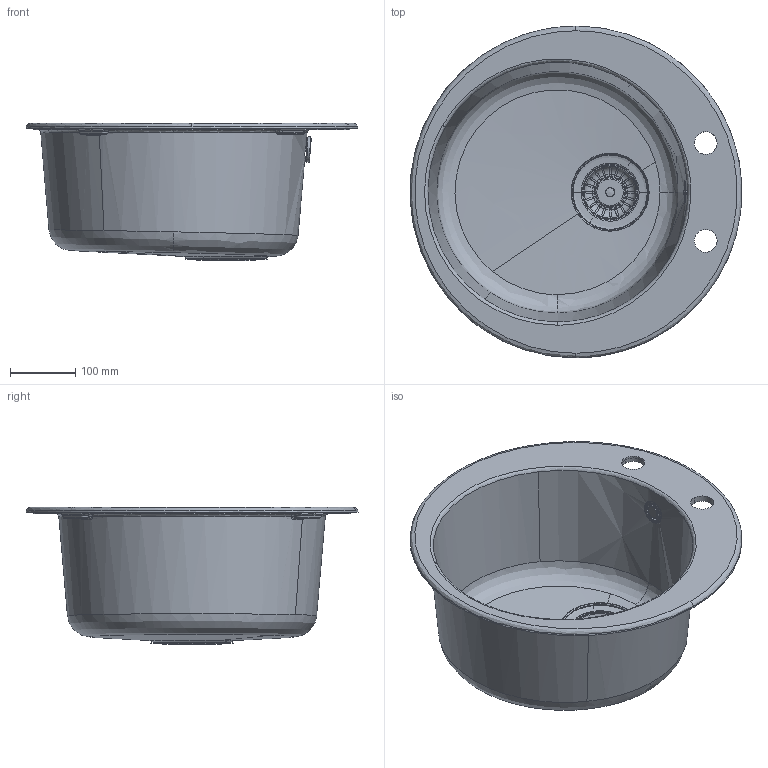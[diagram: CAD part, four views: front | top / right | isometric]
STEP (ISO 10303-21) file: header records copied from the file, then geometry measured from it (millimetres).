
FILE_DESCRIPTION(/* description */ (''),/* implementation_level */ '2;1');
FILE_NAME(/* name */ '3D001_Sinks_Ronda_ROG-610-40',/* time_stamp */ '2024-06-26T17:03:21+02:00',/* author */ (''),/* organization */ (''),/* preprocessor_version */ 'ST-DEVELOPER v19.2',/* originating_system */ 'Rhino 8.8',/* authorisation */ '');
FILE_SCHEMA (('CONFIG_CONTROL_DESIGN'));
Length unit declared in the file: millimetre
Products named in the file (1): Document
Bounding box: 509.58 x 509.96 x 211.4 mm (x, y, z)
Volume: 3038847.5 mm3; surface area: 833997.7 mm2
Topology: 1 solids, 3 shells, 523 faces, 1348 edges, 825 vertices
Faces by surface type: bspline 297, cylinder 121, plane 105
Entity records: 22272 total; most frequent: CARTESIAN_POINT 12003, ORIENTED_EDGE 2661, EDGE_CURVE 1336, DIRECTION 1256, VERTEX_POINT 825, AXIS2_PLACEMENT_3D 741, EDGE_LOOP 545, ADVANCED_FACE 523
